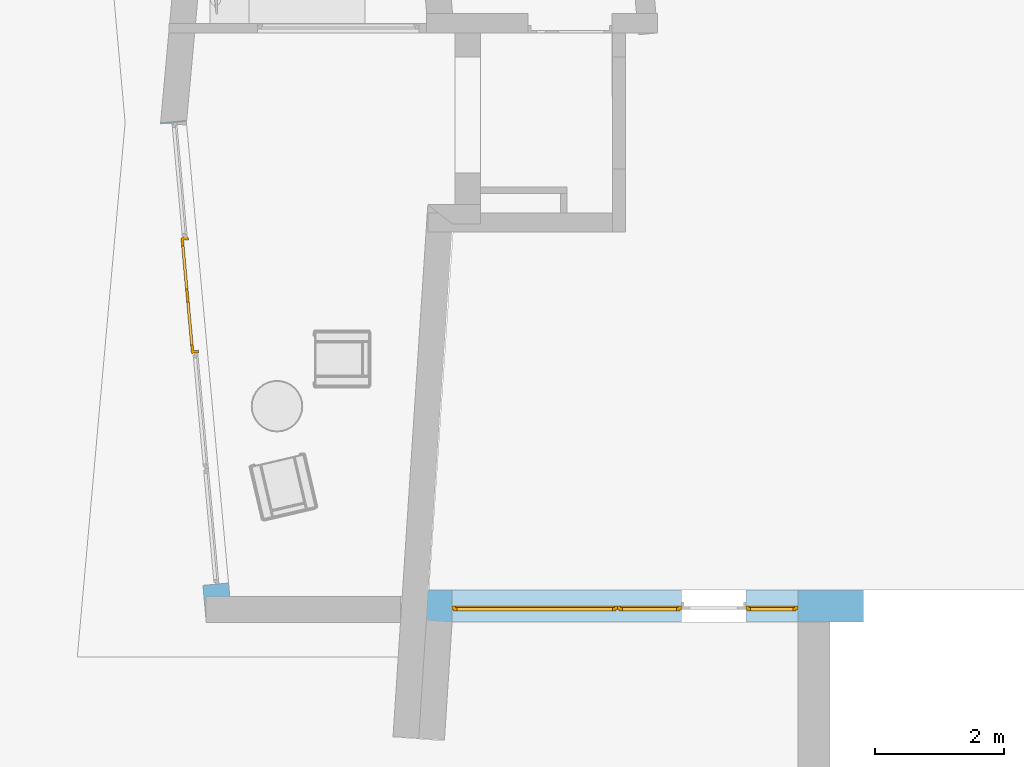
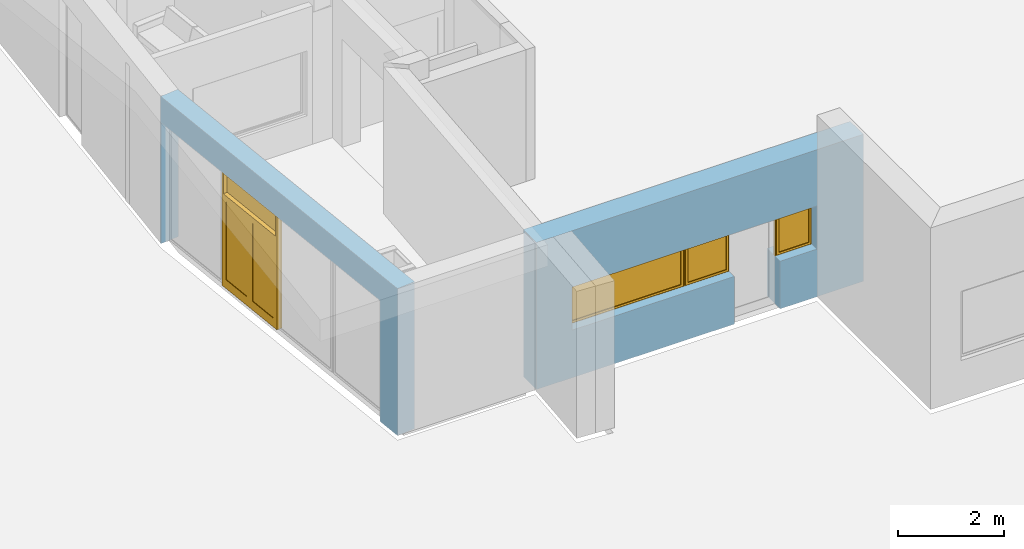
# One storey, part 14 of 36: 3 windows, 1 door, 8 openings, plus 2 elements that do not belong to this part.
"""IFC2X3 building model written with IfcOpenShell, lengths in millimetres."""

from ifc_helpers import new_model, entity, si_unit, converted_unit, money_unit, direction, frame, origin_with_axes, place, context, subcontext, project, spatial, polyline, outline, extrude, open_shell, faceted_brep, surface_model, material, material_list, layer, layer_set, layer_usage, type_object, element, fill, save


model = new_model("IFC2X3")

# Units and contexts
model_context = context("Model", 3, precision=1e-05, world=origin_with_axes(), true_north=direction((0.0, 1.0)))
body_context = subcontext(model_context, "Body", "Model", "MODEL_VIEW")
ifc_project = project(units=[si_unit("LENGTHUNIT", "METRE", prefix="MILLI"), si_unit("AREAUNIT", "SQUARE_METRE"), si_unit("VOLUMEUNIT", "CUBIC_METRE"), converted_unit("PLANEANGLEUNIT", "DEGREE", entity("IfcPlaneAngleMeasure", 0.0174532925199), si_unit("PLANEANGLEUNIT", "RADIAN"), dimensions=[0, 0, 0, 0, 0, 0, 0]), si_unit("SOLIDANGLEUNIT", "STERADIAN"), money_unit("USD"), converted_unit("TIMEUNIT", "Year", entity("IfcTimeMeasure", 31556926.0), si_unit("TIMEUNIT", "SECOND"), dimensions=[0, 0, 0, 0, 0, 0, 0]), si_unit("MASSUNIT", "GRAM"), si_unit("THERMODYNAMICTEMPERATUREUNIT", "DEGREE_CELSIUS"), si_unit("LUMINOUSINTENSITYUNIT", "LUMEN")], contexts=[model_context])

# Site, building, storey
site_placement = place(None, origin_with_axes())
site = spatial("IfcSite", under=ifc_project, at=site_placement, Name="Site", CompositionType="ELEMENT")
building_placement = place(site_placement, origin_with_axes())
building = spatial("IfcBuilding", under=site, at=building_placement, Name="Building", CompositionType="ELEMENT")
storey_placement = place(building_placement, frame((0.0, 0.0, -3400.0), z_axis=(0.0, 0.0, 1.0), x_axis=(1.0, 0.0, 0.0)))
storey = spatial("IfcBuildingStorey", under=building, at=storey_placement, Name="1KORRUS", CompositionType="ELEMENT", Elevation=-3400.0)

# Wall, openings, windows
ifc_material_1 = material(Name="Olemasolevad seinad tellis, uus viimistlus")
ifc_layer_1 = layer(ifc_material_1, 500.0, ventilated="UNKNOWN")
ifc_layer_set_1 = layer_set([ifc_layer_1], Name="Olemasolevad seinad tellis, uus viimistlus 500")
ifc_layer_usage_1 = layer_usage(ifc_layer_set_1, "AXIS2", "POSITIVE", -400.0)
wall_type_1 = type_object("IfcWallType", Name="Olemasolevad seinad tellis, uus viimistlus 500", PredefinedType="NOTDEFINED")
wall_1_placement = place(storey_placement, frame((-54605.6435345, -19739.2398994, 0.0), z_axis=(0.0, 0.0, 1.0), x_axis=(1.0, 0.0, 0.0)))
wall_1 = element("IfcWallStandardCase", 1, at=wall_1_placement, inside=storey, type_object=wall_type_1, material=ifc_layer_usage_1, Name="VS1", ObjectType="VS1", context=body_context, shape_type="SweptSolid", body=[
    extrude(outline(polyline([(0.0, -400.0), (7153.83557515, -400.0), (7153.83557515, 100.0), (0.0, 100.0), (0.0, -400.0)])), origin_with_axes(), (0.0, 0.0, 1.0), 3400.0),
])
opening_1_placement = place(wall_1_placement, frame((2055.11692338, 0.0, 1100.0), z_axis=(0.0, 0.0, 1.0), x_axis=(1.0, 0.0, 0.0)))
opening_1 = element("IfcOpeningElement", 2, at=opening_1_placement, cuts=wall_1, Name="Olemasolevad aknad jäävad", context=body_context, shape_type="SweptSolid", body=[
    extrude(outline(polyline([(1282.942, 1000.0), (-1282.942, 1000.0), (-1282.942, 0.0), (1282.942, 0.0), (1282.942, 1000.0)])), frame((0.0, -200.0, 0.0), z_axis=(0.0, 1.0, 0.0), x_axis=(-1.0, 0.0, 0.0)), (0.0, 0.0, 1.0), 800.0),
    extrude(outline(polyline([(1282.942, 0.0), (-1282.942, 0.0), (-1282.942, -1000.0), (1282.942, -1000.0), (1282.942, 0.0)])), frame((0.0, -200.0, 0.0), z_axis=(0.0, -1.0, 0.0), x_axis=(-1.0, 0.0, 0.0)), (0.0, 0.0, 1.0), 700.0),
])
opening_2_placement = place(wall_1_placement, frame((3834.30451492, 0.0, 1100.0), z_axis=(0.0, 0.0, 1.0), x_axis=(1.0, 0.0, 0.0)))
opening_2 = element("IfcOpeningElement", 3, at=opening_2_placement, cuts=wall_1, Name="Olemasolevad aknad jäävad", context=body_context, shape_type="SweptSolid", body=[
    extrude(outline(polyline([(496.245, 1000.0), (-496.245, 1000.0), (-496.245, 0.0), (496.245, 0.0), (496.245, 1000.0)])), frame((0.0, -200.0, 0.0), z_axis=(0.0, 1.0, 0.0), x_axis=(-1.0, 0.0, 0.0)), (0.0, 0.0, 1.0), 800.0),
    extrude(outline(polyline([(496.245, 0.0), (-496.245, 0.0), (-496.245, -1000.0), (496.245, -1000.0), (496.245, 0.0)])), frame((0.0, -200.0, 0.0), z_axis=(0.0, -1.0, 0.0), x_axis=(-1.0, 0.0, 0.0)), (0.0, 0.0, 1.0), 700.0),
])
opening_3_placement = place(wall_1_placement, frame((5732.94838348, 0.0, 1100.0), z_axis=(0.0, 0.0, 1.0), x_axis=(1.0, 0.0, 0.0)))
opening_3 = element("IfcOpeningElement", 4, at=opening_3_placement, cuts=wall_1, Name="Olemasolevad aknad jäävad", context=body_context, shape_type="SweptSolid", body=[
    extrude(outline(polyline([(402.398, 1000.0), (-402.398, 1000.0), (-402.398, 0.0), (402.398, 0.0), (402.398, 1000.0)])), frame((0.0, -200.0, 0.0), z_axis=(0.0, 1.0, 0.0), x_axis=(-1.0, 0.0, 0.0)), (0.0, 0.0, 1.0), 800.0),
    extrude(outline(polyline([(402.398, 0.0), (-402.398, 0.0), (-402.398, -1000.0), (402.398, -1000.0), (402.398, 0.0)])), frame((0.0, -200.0, 0.0), z_axis=(0.0, -1.0, 0.0), x_axis=(-1.0, 0.0, 0.0)), (0.0, 0.0, 1.0), 700.0),
])
opening_4_placement = place(wall_1_placement, frame((4830.54993578, 0.0, 0.0), z_axis=(0.0, 0.0, 1.0), x_axis=(1.0, 0.0, 0.0)))
element("IfcOpeningElement", 5, at=opening_4_placement, cuts=wall_1, Name="ava", context=body_context, shape_type="SweptSolid", body=[
    extrude(outline(polyline([(-500.0, 2100.0), (-500.0, 0.0), (500.0, 0.0), (500.0, 2100.0), (-500.0, 2100.0)])), frame((0.0, -200.0, 0.0), z_axis=(0.0, -1.0, 0.0), x_axis=(1.0, 0.0, 0.0)), (0.0, 0.0, -1.0), 800.0),
    extrude(outline(polyline([(-500.0, 0.0), (-500.0, -2100.0), (500.0, -2100.0), (500.0, 0.0), (-500.0, 0.0)])), frame((0.0, -200.0, 0.0), z_axis=(0.0, 1.0, 0.0), x_axis=(1.0, 0.0, 0.0)), (0.0, 0.0, -1.0), 700.0),
])
ifc_material_2 = material(Name="Background")
ifc_material_list = material_list([ifc_material_2])
window_style = type_object("IfcWindowStyle", Name="Window 19", ConstructionType="NOTDEFINED", OperationType="SINGLE_PANEL", ParameterTakesPrecedence=False, Sizeable=False)
window_1_placement = place(opening_1_placement, frame((1282.94217069, 0.0, 0.0), z_axis=(0.0, 0.0, 1.0), x_axis=(-1.0, 0.0, 0.0)))
window_1 = element("IfcWindow", 6, at=window_1_placement, inside=storey, type_object=window_style, material=ifc_material_list, Name="Olemasolevad aknad jäävad", ObjectType="Olemasolevad aknad jäävad", OverallHeight=1000.0, OverallWidth=2565.88, context=body_context, shape_type="SurfaceModel", body=[
    faceted_brep([(2540.884, 200.0, 950.0), (2540.884, 175.0, 950.0), (2515.884, 175.0, 950.0), (2515.884, 150.0, 950.0), (2565.884, 150.0, 950.0), (2565.884, 200.0, 950.0), (2540.884, 200.0, 50.0), (2540.884, 175.0, 50.0), (2515.884, 175.0, 50.0), (2515.884, 150.0, 50.0), (2565.884, 150.0, 50.0), (2565.884, 200.0, 50.0)], [[[0, 1, 2, 3, 4, 5]], [[1, 0, 6, 7]], [[8, 2, 1, 7]], [[2, 8, 9, 3]], [[4, 3, 9, 10]], [[5, 4, 10, 11]], [[6, 0, 5, 11]], [[7, 6, 11, 10, 9, 8]]]),
    faceted_brep([(50.000000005, 175.0, 950.0), (25.000000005, 175.0, 950.0), (25.000000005, 200.0, 950.0), (4.99511543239e-09, 200.0, 950.0), (4.99511543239e-09, 150.0, 950.0), (50.000000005, 150.0, 950.0), (50.000000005, 175.0, 50.0), (25.000000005, 175.0, 50.0), (25.000000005, 200.0, 50.0), (4.99511543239e-09, 200.0, 50.0), (4.99511543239e-09, 150.0, 50.0), (50.000000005, 150.0, 50.0)], [[[0, 1, 2, 3, 4, 5]], [[1, 0, 6, 7]], [[8, 2, 1, 7]], [[2, 8, 9, 3]], [[9, 10, 4, 3]], [[10, 11, 5, 4]], [[6, 0, 5, 11]], [[7, 6, 11, 10, 9, 8]]]),
    faceted_brep([(50.000000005, 175.0, 50.0), (25.000000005, 175.0, 50.0), (25.000000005, 200.0, 50.0), (4.99511543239e-09, 200.0, 50.0), (4.99511543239e-09, 150.0, 50.0), (50.000000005, 150.0, 50.0), (2515.884, 175.0, 50.0), (2540.884, 175.0, 50.0), (2540.884, 175.0, 25.0), (25.000000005, 175.0, 25.0), (25.000000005, 200.0, 25.0), (2540.884, 200.0, 25.0), (2540.884, 200.0, 50.0), (2565.884, 200.0, 50.0), (2565.884, 200.0, 0.0), (4.99511543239e-09, 200.0, 0.0), (4.99511543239e-09, 150.0, 0.0), (2565.884, 150.0, 50.0), (2515.884, 150.0, 50.0), (2565.884, 150.0, 0.0)], [[[0, 1, 2, 3, 4, 5]], [[1, 0, 6, 7, 8, 9]], [[10, 2, 1, 9]], [[11, 12, 13, 14, 15, 3, 2, 10]], [[15, 16, 4, 3]], [[17, 18, 5, 4, 16, 19]], [[6, 0, 5, 18]], [[7, 6, 18, 17, 13, 12]], [[7, 12, 11, 8]], [[11, 10, 9, 8]], [[13, 17, 19, 14]], [[14, 19, 16, 15]]]),
    faceted_brep([(2540.884, 200.0, 950.0), (2540.884, 200.0, 975.0), (25.000000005, 200.0, 975.0), (25.000000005, 200.0, 950.0), (4.99511543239e-09, 200.0, 950.0), (4.99511543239e-09, 200.0, 1000.0), (2565.884, 200.0, 1000.0), (2565.884, 200.0, 950.0), (2540.884, 175.0, 950.0), (2540.884, 175.0, 975.0), (25.000000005, 175.0, 975.0), (25.000000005, 175.0, 950.0), (50.000000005, 175.0, 950.0), (50.000000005, 150.0, 950.0), (4.99511543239e-09, 150.0, 950.0), (4.99511543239e-09, 150.0, 1000.0), (2565.884, 150.0, 1000.0), (2565.884, 150.0, 950.0), (2515.884, 150.0, 950.0), (2515.884, 175.0, 950.0)], [[[0, 1, 2, 3, 4, 5, 6, 7]], [[1, 0, 8, 9]], [[2, 1, 9, 10]], [[3, 2, 10, 11]], [[11, 12, 13, 14, 4, 3]], [[4, 14, 15, 5]], [[5, 15, 16, 6]], [[6, 16, 17, 7]], [[8, 0, 7, 17, 18, 19]], [[12, 11, 10, 9, 8, 19]], [[12, 19, 18, 13]], [[14, 13, 18, 17, 16, 15]]]),
    faceted_brep([(2490.884, 175.0, 925.0), (2540.884, 175.0, 925.0), (2540.884, 225.0, 925.0), (2490.884, 225.0, 925.0), (2490.884, 175.0, 75.0), (2540.884, 175.0, 75.0), (2540.884, 225.0, 75.0), (2490.884, 225.0, 75.0)], [[[0, 1, 2, 3]], [[0, 4, 5, 1]], [[1, 5, 6, 2]], [[3, 2, 6, 7]], [[4, 0, 3, 7]], [[5, 4, 7, 6]]]),
    faceted_brep([(75.000000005, 175.0, 75.0), (25.000000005, 175.0, 75.0), (25.000000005, 225.0, 75.0), (75.000000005, 225.0, 75.0), (75.000000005, 175.0, 925.0), (25.000000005, 175.0, 925.0), (25.000000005, 225.0, 925.0), (75.000000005, 225.0, 925.0)], [[[0, 1, 2, 3]], [[0, 4, 5, 1]], [[1, 5, 6, 2]], [[3, 2, 6, 7]], [[4, 0, 3, 7]], [[5, 4, 7, 6]]]),
    faceted_brep([(25.000000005, 175.0, 25.0), (25.000000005, 175.0, 75.0), (25.000000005, 225.0, 75.0), (25.000000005, 225.0, 25.0), (2540.884, 175.0, 25.0), (2540.884, 175.0, 75.0), (2490.884, 175.0, 75.0), (75.000000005, 175.0, 75.0), (75.000000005, 225.0, 75.0), (2490.884, 225.0, 75.0), (2540.884, 225.0, 75.0), (2540.884, 225.0, 25.0)], [[[0, 1, 2, 3]], [[0, 4, 5, 6, 7, 1]], [[1, 7, 8, 2]], [[3, 2, 8, 9, 10, 11]], [[4, 0, 3, 11]], [[5, 4, 11, 10]], [[6, 5, 10, 9]], [[7, 6, 9, 8]]]),
    faceted_brep([(2540.884, 175.0, 975.0), (2540.884, 175.0, 925.0), (2540.884, 225.0, 925.0), (2540.884, 225.0, 975.0), (25.000000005, 175.0, 975.0), (25.000000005, 175.0, 925.0), (75.000000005, 175.0, 925.0), (2490.884, 175.0, 925.0), (2490.884, 225.0, 925.0), (75.000000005, 225.0, 925.0), (25.000000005, 225.0, 925.0), (25.000000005, 225.0, 975.0)], [[[0, 1, 2, 3]], [[0, 4, 5, 6, 7, 1]], [[1, 7, 8, 2]], [[3, 2, 8, 9, 10, 11]], [[4, 0, 3, 11]], [[5, 4, 11, 10]], [[6, 5, 10, 9]], [[7, 6, 9, 8]]]),
    surface_model("IfcShellBasedSurfaceModel", [(2490.884, 190.0, 75.0), (2490.884, 190.0, 925.0), (75.000000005, 190.0, 925.0), (75.000000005, 190.0, 75.0)], [open_shell([[[0, 1, 2, 3]]])]),
    surface_model("IfcShellBasedSurfaceModel", [(2490.884, 210.0, 75.0), (75.000000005, 210.0, 75.0), (75.000000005, 210.0, 925.0), (2490.884, 210.0, 925.0)], [open_shell([[[0, 1, 2, 3]]])]),
])
fill(opening_1, window_1)
window_2_placement = place(opening_2_placement, frame((496.245420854, 0.0, 0.0), z_axis=(0.0, 0.0, 1.0), x_axis=(-1.0, 0.0, 0.0)))
window_2 = element("IfcWindow", 7, at=window_2_placement, inside=storey, type_object=window_style, material=ifc_material_list, Name="Olemasolevad aknad jäävad", ObjectType="Olemasolevad aknad jäävad", OverallHeight=1000.0, OverallWidth=992.491, context=body_context, shape_type="SurfaceModel", body=[
    faceted_brep([(967.491, 200.0, 950.0), (967.491, 175.0, 950.0), (942.491, 175.0, 950.0), (942.491, 150.0, 950.0), (992.491, 150.0, 950.0), (992.491, 200.0, 950.0), (967.491, 200.0, 50.0), (967.491, 175.0, 50.0), (942.491, 175.0, 50.0), (942.491, 150.0, 50.0), (992.491, 150.0, 50.0), (992.491, 200.0, 50.0)], [[[0, 1, 2, 3, 4, 5]], [[1, 0, 6, 7]], [[8, 2, 1, 7]], [[2, 8, 9, 3]], [[4, 3, 9, 10]], [[5, 4, 10, 11]], [[6, 0, 5, 11]], [[7, 6, 11, 10, 9, 8]]]),
    faceted_brep([(50.0, 175.0, 950.0), (25.0, 175.0, 950.0), (25.0, 200.0, 950.0), (0.0, 200.0, 950.0), (0.0, 150.0, 950.0), (50.0, 150.0, 950.0), (50.0, 175.0, 50.0), (25.0, 175.0, 50.0), (25.0, 200.0, 50.0), (0.0, 200.0, 50.0), (0.0, 150.0, 50.0), (50.0, 150.0, 50.0)], [[[0, 1, 2, 3, 4, 5]], [[1, 0, 6, 7]], [[8, 2, 1, 7]], [[2, 8, 9, 3]], [[9, 10, 4, 3]], [[10, 11, 5, 4]], [[6, 0, 5, 11]], [[7, 6, 11, 10, 9, 8]]]),
    faceted_brep([(50.0, 175.0, 50.0), (25.0, 175.0, 50.0), (25.0, 200.0, 50.0), (0.0, 200.0, 50.0), (0.0, 150.0, 50.0), (50.0, 150.0, 50.0), (942.491, 175.0, 50.0), (967.491, 175.0, 50.0), (967.491, 175.0, 25.0), (25.0, 175.0, 25.0), (25.0, 200.0, 25.0), (967.491, 200.0, 25.0), (967.491, 200.0, 50.0), (992.491, 200.0, 50.0), (992.491, 200.0, 0.0), (0.0, 200.0, 0.0), (0.0, 150.0, 0.0), (992.491, 150.0, 50.0), (942.491, 150.0, 50.0), (992.491, 150.0, 0.0)], [[[0, 1, 2, 3, 4, 5]], [[1, 0, 6, 7, 8, 9]], [[10, 2, 1, 9]], [[11, 12, 13, 14, 15, 3, 2, 10]], [[15, 16, 4, 3]], [[17, 18, 5, 4, 16, 19]], [[6, 0, 5, 18]], [[7, 6, 18, 17, 13, 12]], [[7, 12, 11, 8]], [[11, 10, 9, 8]], [[13, 17, 19, 14]], [[14, 19, 16, 15]]]),
    faceted_brep([(967.491, 200.0, 950.0), (967.491, 200.0, 975.0), (25.0, 200.0, 975.0), (25.0, 200.0, 950.0), (0.0, 200.0, 950.0), (0.0, 200.0, 1000.0), (992.491, 200.0, 1000.0), (992.491, 200.0, 950.0), (967.491, 175.0, 950.0), (967.491, 175.0, 975.0), (25.0, 175.0, 975.0), (25.0, 175.0, 950.0), (50.0, 175.0, 950.0), (50.0, 150.0, 950.0), (0.0, 150.0, 950.0), (0.0, 150.0, 1000.0), (992.491, 150.0, 1000.0), (992.491, 150.0, 950.0), (942.491, 150.0, 950.0), (942.491, 175.0, 950.0)], [[[0, 1, 2, 3, 4, 5, 6, 7]], [[1, 0, 8, 9]], [[2, 1, 9, 10]], [[3, 2, 10, 11]], [[11, 12, 13, 14, 4, 3]], [[4, 14, 15, 5]], [[5, 15, 16, 6]], [[6, 16, 17, 7]], [[8, 0, 7, 17, 18, 19]], [[12, 11, 10, 9, 8, 19]], [[12, 19, 18, 13]], [[14, 13, 18, 17, 16, 15]]]),
    faceted_brep([(917.491, 175.0, 925.0), (967.491, 175.0, 925.0), (967.491, 225.0, 925.0), (917.491, 225.0, 925.0), (917.491, 175.0, 75.0), (967.491, 175.0, 75.0), (967.491, 225.0, 75.0), (917.491, 225.0, 75.0)], [[[0, 1, 2, 3]], [[0, 4, 5, 1]], [[1, 5, 6, 2]], [[3, 2, 6, 7]], [[4, 0, 3, 7]], [[5, 4, 7, 6]]]),
    faceted_brep([(75.0, 175.0, 75.0), (25.0, 175.0, 75.0), (25.0, 225.0, 75.0), (75.0, 225.0, 75.0), (75.0, 175.0, 925.0), (25.0, 175.0, 925.0), (25.0, 225.0, 925.0), (75.0, 225.0, 925.0)], [[[0, 1, 2, 3]], [[0, 4, 5, 1]], [[1, 5, 6, 2]], [[3, 2, 6, 7]], [[4, 0, 3, 7]], [[5, 4, 7, 6]]]),
    faceted_brep([(25.0, 175.0, 25.0), (25.0, 175.0, 75.0), (25.0, 225.0, 75.0), (25.0, 225.0, 25.0), (967.491, 175.0, 25.0), (967.491, 175.0, 75.0), (917.491, 175.0, 75.0), (75.0, 175.0, 75.0), (75.0, 225.0, 75.0), (917.491, 225.0, 75.0), (967.491, 225.0, 75.0), (967.491, 225.0, 25.0)], [[[0, 1, 2, 3]], [[0, 4, 5, 6, 7, 1]], [[1, 7, 8, 2]], [[3, 2, 8, 9, 10, 11]], [[4, 0, 3, 11]], [[5, 4, 11, 10]], [[6, 5, 10, 9]], [[7, 6, 9, 8]]]),
    faceted_brep([(967.491, 175.0, 975.0), (967.491, 175.0, 925.0), (967.491, 225.0, 925.0), (967.491, 225.0, 975.0), (25.0, 175.0, 975.0), (25.0, 175.0, 925.0), (75.0, 175.0, 925.0), (917.491, 175.0, 925.0), (917.491, 225.0, 925.0), (75.0, 225.0, 925.0), (25.0, 225.0, 925.0), (25.0, 225.0, 975.0)], [[[0, 1, 2, 3]], [[0, 4, 5, 6, 7, 1]], [[1, 7, 8, 2]], [[3, 2, 8, 9, 10, 11]], [[4, 0, 3, 11]], [[5, 4, 11, 10]], [[6, 5, 10, 9]], [[7, 6, 9, 8]]]),
    surface_model("IfcShellBasedSurfaceModel", [(917.491, 190.0, 75.0), (917.491, 190.0, 925.0), (75.0, 190.0, 925.0), (75.0, 190.0, 75.0)], [open_shell([[[0, 1, 2, 3]]])]),
    surface_model("IfcShellBasedSurfaceModel", [(917.491, 210.0, 75.0), (75.0, 210.0, 75.0), (75.0, 210.0, 925.0), (917.491, 210.0, 925.0)], [open_shell([[[0, 1, 2, 3]]])]),
])
fill(opening_2, window_2)
window_3_placement = place(opening_3_placement, frame((402.398447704, 0.0, 0.0), z_axis=(0.0, 0.0, 1.0), x_axis=(-1.0, 0.0, 0.0)))
window_3 = element("IfcWindow", 8, at=window_3_placement, inside=storey, type_object=window_style, material=ifc_material_list, Name="Olemasolevad aknad jäävad", ObjectType="Olemasolevad aknad jäävad", OverallHeight=1000.0, OverallWidth=804.797, context=body_context, shape_type="SurfaceModel", body=[
    faceted_brep([(779.797, 200.0, 950.0), (779.797, 175.0, 950.0), (754.797, 175.0, 950.0), (754.797, 150.0, 950.0), (804.797, 150.0, 950.0), (804.797, 200.0, 950.0), (779.797, 200.0, 50.0), (779.797, 175.0, 50.0), (754.797, 175.0, 50.0), (754.797, 150.0, 50.0), (804.797, 150.0, 50.0), (804.797, 200.0, 50.0)], [[[0, 1, 2, 3, 4, 5]], [[1, 0, 6, 7]], [[8, 2, 1, 7]], [[2, 8, 9, 3]], [[4, 3, 9, 10]], [[5, 4, 10, 11]], [[6, 0, 5, 11]], [[7, 6, 11, 10, 9, 8]]]),
    faceted_brep([(50.0, 175.0, 950.0), (25.0, 175.0, 950.0), (25.0, 200.0, 950.0), (0.0, 200.0, 950.0), (0.0, 150.0, 950.0), (50.0, 150.0, 950.0), (50.0, 175.0, 50.0), (25.0, 175.0, 50.0), (25.0, 200.0, 50.0), (0.0, 200.0, 50.0), (0.0, 150.0, 50.0), (50.0, 150.0, 50.0)], [[[0, 1, 2, 3, 4, 5]], [[1, 0, 6, 7]], [[8, 2, 1, 7]], [[2, 8, 9, 3]], [[9, 10, 4, 3]], [[10, 11, 5, 4]], [[6, 0, 5, 11]], [[7, 6, 11, 10, 9, 8]]]),
    faceted_brep([(50.0, 175.0, 50.0), (25.0, 175.0, 50.0), (25.0, 200.0, 50.0), (0.0, 200.0, 50.0), (0.0, 150.0, 50.0), (50.0, 150.0, 50.0), (754.797, 175.0, 50.0), (779.797, 175.0, 50.0), (779.797, 175.0, 25.0), (25.0, 175.0, 25.0), (25.0, 200.0, 25.0), (779.797, 200.0, 25.0), (779.797, 200.0, 50.0), (804.797, 200.0, 50.0), (804.797, 200.0, 0.0), (0.0, 200.0, 0.0), (0.0, 150.0, 0.0), (804.797, 150.0, 50.0), (754.797, 150.0, 50.0), (804.797, 150.0, 0.0)], [[[0, 1, 2, 3, 4, 5]], [[1, 0, 6, 7, 8, 9]], [[10, 2, 1, 9]], [[11, 12, 13, 14, 15, 3, 2, 10]], [[15, 16, 4, 3]], [[17, 18, 5, 4, 16, 19]], [[6, 0, 5, 18]], [[7, 6, 18, 17, 13, 12]], [[7, 12, 11, 8]], [[11, 10, 9, 8]], [[13, 17, 19, 14]], [[14, 19, 16, 15]]]),
    faceted_brep([(779.797, 200.0, 950.0), (779.797, 200.0, 975.0), (25.0, 200.0, 975.0), (25.0, 200.0, 950.0), (0.0, 200.0, 950.0), (0.0, 200.0, 1000.0), (804.797, 200.0, 1000.0), (804.797, 200.0, 950.0), (779.797, 175.0, 950.0), (779.797, 175.0, 975.0), (25.0, 175.0, 975.0), (25.0, 175.0, 950.0), (50.0, 175.0, 950.0), (50.0, 150.0, 950.0), (0.0, 150.0, 950.0), (0.0, 150.0, 1000.0), (804.797, 150.0, 1000.0), (804.797, 150.0, 950.0), (754.797, 150.0, 950.0), (754.797, 175.0, 950.0)], [[[0, 1, 2, 3, 4, 5, 6, 7]], [[1, 0, 8, 9]], [[2, 1, 9, 10]], [[3, 2, 10, 11]], [[11, 12, 13, 14, 4, 3]], [[4, 14, 15, 5]], [[5, 15, 16, 6]], [[6, 16, 17, 7]], [[8, 0, 7, 17, 18, 19]], [[12, 11, 10, 9, 8, 19]], [[12, 19, 18, 13]], [[14, 13, 18, 17, 16, 15]]]),
    faceted_brep([(729.797, 175.0, 925.0), (779.797, 175.0, 925.0), (779.797, 225.0, 925.0), (729.797, 225.0, 925.0), (729.797, 175.0, 75.0), (779.797, 175.0, 75.0), (779.797, 225.0, 75.0), (729.797, 225.0, 75.0)], [[[0, 1, 2, 3]], [[0, 4, 5, 1]], [[1, 5, 6, 2]], [[3, 2, 6, 7]], [[4, 0, 3, 7]], [[5, 4, 7, 6]]]),
    faceted_brep([(75.0, 175.0, 75.0), (25.0, 175.0, 75.0), (25.0, 225.0, 75.0), (75.0, 225.0, 75.0), (75.0, 175.0, 925.0), (25.0, 175.0, 925.0), (25.0, 225.0, 925.0), (75.0, 225.0, 925.0)], [[[0, 1, 2, 3]], [[0, 4, 5, 1]], [[1, 5, 6, 2]], [[3, 2, 6, 7]], [[4, 0, 3, 7]], [[5, 4, 7, 6]]]),
    faceted_brep([(25.0, 175.0, 25.0), (25.0, 175.0, 75.0), (25.0, 225.0, 75.0), (25.0, 225.0, 25.0), (779.797, 175.0, 25.0), (779.797, 175.0, 75.0), (729.797, 175.0, 75.0), (75.0, 175.0, 75.0), (75.0, 225.0, 75.0), (729.797, 225.0, 75.0), (779.797, 225.0, 75.0), (779.797, 225.0, 25.0)], [[[0, 1, 2, 3]], [[0, 4, 5, 6, 7, 1]], [[1, 7, 8, 2]], [[3, 2, 8, 9, 10, 11]], [[4, 0, 3, 11]], [[5, 4, 11, 10]], [[6, 5, 10, 9]], [[7, 6, 9, 8]]]),
    faceted_brep([(779.797, 175.0, 975.0), (779.797, 175.0, 925.0), (779.797, 225.0, 925.0), (779.797, 225.0, 975.0), (25.0, 175.0, 975.0), (25.0, 175.0, 925.0), (75.0, 175.0, 925.0), (729.797, 175.0, 925.0), (729.797, 225.0, 925.0), (75.0, 225.0, 925.0), (25.0, 225.0, 925.0), (25.0, 225.0, 975.0)], [[[0, 1, 2, 3]], [[0, 4, 5, 6, 7, 1]], [[1, 7, 8, 2]], [[3, 2, 8, 9, 10, 11]], [[4, 0, 3, 11]], [[5, 4, 11, 10]], [[6, 5, 10, 9]], [[7, 6, 9, 8]]]),
    surface_model("IfcShellBasedSurfaceModel", [(729.797, 190.0, 75.0), (729.797, 190.0, 925.0), (75.0, 190.0, 925.0), (75.0, 190.0, 75.0)], [open_shell([[[0, 1, 2, 3]]])]),
    surface_model("IfcShellBasedSurfaceModel", [(729.797, 210.0, 75.0), (75.0, 210.0, 75.0), (75.0, 210.0, 925.0), (729.797, 210.0, 925.0)], [open_shell([[[0, 1, 2, 3]]])]),
])
fill(opening_3, window_3)

# Wall, openings, door
ifc_material_3 = material(Name="Kergplokk")
ifc_layer_2 = layer(ifc_material_3, 200.0, ventilated="UNKNOWN")
ifc_material_4 = material(Name="Plaat")
ifc_layer_3 = layer(ifc_material_4, 200.0, ventilated="UNKNOWN")
ifc_layer_set_2 = layer_set([ifc_layer_2, ifc_layer_3], Name="VS2 Uus välissein kergplokk, soojustus, plaat")
ifc_layer_usage_2 = layer_usage(ifc_layer_set_2, "AXIS2", "POSITIVE", -400.0)
wall_type_2 = type_object("IfcWallType", Name="VS2 Uus välissein kergplokk, soojustus, plaat 400", PredefinedType="NOTDEFINED")
wall_2_placement = place(storey_placement, frame((-57647.6401026, -20140.8461459, 0.0), z_axis=(0.0, 0.0, 1.0), x_axis=(-0.0910473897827, 0.995846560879, 0.0)))
wall_2 = element("IfcWallStandardCase", 9, at=wall_2_placement, inside=storey, type_object=wall_type_2, material=ifc_layer_usage_2, Name="VS2", ObjectType="VS2", context=body_context, shape_type="SweptSolid", body=[
    extrude(outline(polyline([(0.0, -400.0), (7782.94701514, -400.0), (7782.94701514, 0.0), (0.0, 0.0), (0.0, -400.0)])), origin_with_axes(), (0.0, 0.0, 1.0), 3400.0),
])
opening_5_placement = place(wall_2_placement, frame((6866.08785727, 0.0, 0.0), z_axis=(0.0, 0.0, 1.0), x_axis=(1.0, 0.0, 0.0)))
element("IfcOpeningElement", 10, at=opening_5_placement, cuts=wall_2, Name="KLA1", context=body_context, shape_type="SweptSolid", body=[
    extrude(outline(polyline([(-900.0, 0.0), (-900.0, -2800.0), (900.0, -2800.0), (900.0, 0.0), (-900.0, 0.0)])), frame((0.0, -200.0, 0.0), z_axis=(0.0, 1.0, 0.0), x_axis=(1.0, 0.0, 0.0)), (0.0, 0.0, 1.0), 600.0),
    extrude(outline(polyline([(-900.0, 2800.0), (-900.0, 0.0), (900.0, 0.0), (900.0, 2800.0), (-900.0, 2800.0)])), frame((0.0, -200.0, 0.0), z_axis=(0.0, -1.0, 0.0), x_axis=(1.0, 0.0, 0.0)), (0.0, 0.0, 1.0), 600.0),
])
opening_6_placement = place(wall_2_placement, frame((3275.57702924, 0.0, 0.0), z_axis=(0.0, 0.0, 1.0), x_axis=(1.0, 0.0, 0.0)))
element("IfcOpeningElement", 11, at=opening_6_placement, cuts=wall_2, Name="KLA1", context=body_context, shape_type="SweptSolid", body=[
    extrude(outline(polyline([(-900.0, 0.0), (-900.0, -2800.0), (900.0, -2800.0), (900.0, 0.0), (-900.0, 0.0)])), frame((0.0, -200.0, 0.0), z_axis=(0.0, 1.0, 0.0), x_axis=(1.0, 0.0, 0.0)), (0.0, 0.0, 1.0), 600.0),
    extrude(outline(polyline([(-900.0, 2800.0), (-900.0, 0.0), (900.0, 0.0), (900.0, 2800.0), (-900.0, 2800.0)])), frame((0.0, -200.0, 0.0), z_axis=(0.0, -1.0, 0.0), x_axis=(1.0, 0.0, 0.0)), (0.0, 0.0, 1.0), 600.0),
])
opening_7_placement = place(wall_2_placement, frame((1475.57702924, 0.0, 0.0), z_axis=(0.0, 0.0, 1.0), x_axis=(1.0, 0.0, 0.0)))
element("IfcOpeningElement", 12, at=opening_7_placement, cuts=wall_2, Name="KLA1", context=body_context, shape_type="SweptSolid", body=[
    extrude(outline(polyline([(-900.0, 0.0), (-900.0, -2800.0), (900.0, -2800.0), (900.0, 0.0), (-900.0, 0.0)])), frame((0.0, -200.0, 0.0), z_axis=(0.0, 1.0, 0.0), x_axis=(1.0, 0.0, 0.0)), (0.0, 0.0, 1.0), 600.0),
    extrude(outline(polyline([(-900.0, 2800.0), (-900.0, 0.0), (900.0, 0.0), (900.0, 2800.0), (-900.0, 2800.0)])), frame((0.0, -200.0, 0.0), z_axis=(0.0, -1.0, 0.0), x_axis=(1.0, 0.0, 0.0)), (0.0, 0.0, 1.0), 600.0),
])
opening_8_placement = place(wall_2_placement, frame((5075.57702924, 0.0, 0.0), z_axis=(0.0, 0.0, 1.0), x_axis=(1.0, 0.0, 0.0)))
opening_8 = element("IfcOpeningElement", 13, at=opening_8_placement, cuts=wall_2, Name="KLA1", context=body_context, shape_type="SweptSolid", body=[
    extrude(outline(polyline([(900.0, 2800.0), (-900.0, 2800.0), (-900.0, 0.0), (900.0, 0.0), (900.0, 2800.0)])), frame((0.0, -150.0, 0.0), z_axis=(0.0, -1.0, 0.0), x_axis=(1.0, 0.0, 0.0)), (0.0, 0.0, 1.0), 650.0),
    extrude(outline(polyline([(900.0, 0.0), (-900.0, 0.0), (-900.0, -2800.0), (900.0, -2800.0), (900.0, 0.0)])), frame((0.0, -150.0, 0.0), z_axis=(0.0, 1.0, 0.0), x_axis=(1.0, 0.0, 0.0)), (0.0, 0.0, 1.0), 550.0),
])
door_style = type_object("IfcDoorStyle", Name="Double Door with Transom 19", ConstructionType="NOTDEFINED", OperationType="DOUBLE_DOOR_SINGLE_SWING", ParameterTakesPrecedence=False, Sizeable=False)
door_placement = place(opening_8_placement, frame((-900.0, 0.0, 0.0), z_axis=(0.0, 0.0, 1.0), x_axis=(1.0, 0.0, 0.0)))
door = element("IfcDoor", 14, at=door_placement, inside=storey, type_object=door_style, material=ifc_material_list, Name="KLA1", ObjectType="DOOR", OverallHeight=2800.0, OverallWidth=1800.0, context=body_context, shape_type="SurfaceModel", body=[
    faceted_brep([(1760.0, -190.0, 2112.0), (1760.0, -190.0, 0.0), (1760.0, -265.0, 0.0), (1760.0, -265.0, 2100.0), (1760.0, -265.0, 2140.0), (1760.0, -150.0, 2140.0), (1760.0, -150.0, 2112.0), (1772.0, -190.0, 2112.0), (1772.0, -190.0, 0.0), (1772.0, -150.0, 0.0), (1800.0, -150.0, 0.0), (1800.0, -265.0, 0.0), (1760.0, -265.0, 2760.0), (1800.0, -265.0, 2760.0), (1760.0, -150.0, 2760.0), (1772.0, -150.0, 2112.0), (1800.0, -150.0, 2760.0)], [[[0, 1, 2, 3, 4, 5, 6]], [[0, 7, 8, 1]], [[8, 9, 10, 11, 2, 1]], [[12, 4, 3, 2, 11, 13]], [[12, 14, 5, 4]], [[15, 6, 5, 14, 16, 10, 9]], [[6, 15, 7, 0]], [[9, 8, 7, 15]], [[11, 10, 16, 13]], [[13, 16, 14, 12]]]),
    faceted_brep([(28.0, -150.0, 2112.0), (28.0, -150.0, 0.0), (0.0, -150.0, 0.0), (0.0, -150.0, 2760.0), (40.0, -150.0, 2760.0), (40.0, -150.0, 2140.0), (40.0, -150.0, 2112.0), (28.0, -190.0, 2112.0), (28.0, -190.0, 0.0), (40.0, -190.0, 0.0), (40.0, -265.0, 0.0), (0.0, -265.0, 0.0), (0.0, -265.0, 2760.0), (40.0, -265.0, 2760.0), (40.0, -265.0, 2140.0), (40.0, -190.0, 2112.0), (40.0, -265.0, 2100.0)], [[[0, 1, 2, 3, 4, 5, 6]], [[0, 7, 8, 1]], [[8, 9, 10, 11, 2, 1]], [[12, 3, 2, 11]], [[13, 4, 3, 12]], [[14, 5, 4, 13]], [[15, 6, 5, 14, 16, 10, 9]], [[6, 15, 7, 0]], [[8, 7, 15, 9]], [[16, 14, 13, 12, 11, 10]]]),
    faceted_brep([(1800.0, -150.0, 2800.0), (1800.0, -265.0, 2800.0), (1800.0, -265.0, 2760.0), (1800.0, -150.0, 2760.0), (0.0, -150.0, 2800.0), (0.0, -265.0, 2800.0), (0.0, -265.0, 2760.0), (40.0, -265.0, 2760.0), (1760.0, -265.0, 2760.0), (1760.0, -150.0, 2760.0), (40.0, -150.0, 2760.0), (0.0, -150.0, 2760.0)], [[[0, 1, 2, 3]], [[4, 5, 1, 0]], [[1, 5, 6, 7, 8, 2]], [[3, 2, 8, 9]], [[0, 3, 9, 10, 11, 4]], [[11, 6, 5, 4]], [[10, 7, 6, 11]], [[9, 8, 7, 10]]]),
    faceted_brep([(40.0, -190.0, 2112.0), (40.0, -190.0, 2100.0), (40.0, -265.0, 2100.0), (40.0, -265.0, 2140.0), (40.0, -150.0, 2140.0), (40.0, -150.0, 2112.0), (1760.0, -190.0, 2112.0), (1760.0, -190.0, 2100.0), (1760.0, -265.0, 2100.0), (1760.0, -265.0, 2140.0), (1760.0, -150.0, 2140.0), (1760.0, -150.0, 2112.0)], [[[0, 1, 2, 3, 4, 5]], [[0, 6, 7, 1]], [[7, 8, 2, 1]], [[2, 8, 9, 3]], [[9, 10, 4, 3]], [[5, 4, 10, 11]], [[5, 11, 6, 0]], [[6, 11, 10, 9, 8, 7]]]),
    faceted_brep([(28.0, -150.0, 200.0), (128.0, -150.0, 200.0), (128.0, -190.0, 200.0), (28.0, -190.0, 200.0), (28.0, -150.0, 2012.0), (128.0, -150.0, 2012.0), (128.0, -190.0, 2012.0), (28.0, -190.0, 2012.0)], [[[0, 1, 2, 3]], [[0, 4, 5, 1]], [[1, 5, 6, 2]], [[3, 2, 6, 7]], [[4, 0, 3, 7]], [[5, 4, 7, 6]]]),
    faceted_brep([(900.0, -150.0, 200.0), (900.0, -150.0, 2012.0), (900.0, -190.0, 2012.0), (900.0, -190.0, 200.0), (800.0, -150.0, 200.0), (800.0, -150.0, 2012.0), (800.0, -190.0, 2012.0), (800.0, -190.0, 200.0)], [[[0, 1, 2, 3]], [[0, 4, 5, 1]], [[1, 5, 6, 2]], [[3, 2, 6, 7]], [[4, 0, 3, 7]], [[5, 4, 7, 6]]]),
    faceted_brep([(28.0, -150.0, 0.0), (900.0, -150.0, 0.0), (900.0, -190.0, 0.0), (28.0, -190.0, 0.0), (28.0, -150.0, 200.0), (128.0, -150.0, 200.0), (800.0, -150.0, 200.0), (900.0, -150.0, 200.0), (900.0, -190.0, 200.0), (800.0, -190.0, 200.0), (128.0, -190.0, 200.0), (28.0, -190.0, 200.0)], [[[0, 1, 2, 3]], [[0, 4, 5, 6, 7, 1]], [[1, 7, 8, 2]], [[3, 2, 8, 9, 10, 11]], [[4, 0, 3, 11]], [[5, 4, 11, 10]], [[6, 5, 10, 9]], [[7, 6, 9, 8]]]),
    faceted_brep([(28.0, -150.0, 2112.0), (28.0, -150.0, 2012.0), (28.0, -190.0, 2012.0), (28.0, -190.0, 2112.0), (900.0, -150.0, 2112.0), (900.0, -150.0, 2012.0), (800.0, -150.0, 2012.0), (128.0, -150.0, 2012.0), (128.0, -190.0, 2012.0), (800.0, -190.0, 2012.0), (900.0, -190.0, 2012.0), (900.0, -190.0, 2112.0)], [[[0, 1, 2, 3]], [[0, 4, 5, 6, 7, 1]], [[1, 7, 8, 2]], [[3, 2, 8, 9, 10, 11]], [[4, 0, 3, 11]], [[5, 4, 11, 10]], [[6, 5, 10, 9]], [[7, 6, 9, 8]]]),
    surface_model("IfcShellBasedSurfaceModel", [(128.0, -164.0, 200.0), (128.0, -164.0, 2012.0), (800.0, -164.0, 2012.0), (800.0, -164.0, 200.0)], [open_shell([[[0, 1, 2, 3]]])]),
    surface_model("IfcShellBasedSurfaceModel", [(128.0, -176.0, 200.0), (800.0, -176.0, 200.0), (800.0, -176.0, 2012.0), (128.0, -176.0, 2012.0)], [open_shell([[[0, 1, 2, 3]]])]),
    faceted_brep([(1772.0, -150.0, 200.0), (1772.0, -190.0, 200.0), (1672.0, -190.0, 200.0), (1672.0, -150.0, 200.0), (1772.0, -150.0, 2012.0), (1772.0, -190.0, 2012.0), (1672.0, -190.0, 2012.0), (1672.0, -150.0, 2012.0)], [[[0, 1, 2, 3]], [[4, 5, 1, 0]], [[1, 5, 6, 2]], [[3, 2, 6, 7]], [[0, 3, 7, 4]], [[7, 6, 5, 4]]]),
    faceted_brep([(900.0, -150.0, 200.0), (900.0, -190.0, 200.0), (900.0, -190.0, 2012.0), (900.0, -150.0, 2012.0), (1000.0, -150.0, 200.0), (1000.0, -190.0, 200.0), (1000.0, -190.0, 2012.0), (1000.0, -150.0, 2012.0)], [[[0, 1, 2, 3]], [[4, 5, 1, 0]], [[1, 5, 6, 2]], [[3, 2, 6, 7]], [[0, 3, 7, 4]], [[7, 6, 5, 4]]]),
    faceted_brep([(1772.0, -150.0, 0.0), (1772.0, -190.0, 0.0), (900.0, -190.0, 0.0), (900.0, -150.0, 0.0), (1772.0, -150.0, 200.0), (1772.0, -190.0, 200.0), (1672.0, -190.0, 200.0), (1000.0, -190.0, 200.0), (900.0, -190.0, 200.0), (900.0, -150.0, 200.0), (1000.0, -150.0, 200.0), (1672.0, -150.0, 200.0)], [[[0, 1, 2, 3]], [[4, 5, 1, 0]], [[1, 5, 6, 7, 8, 2]], [[3, 2, 8, 9]], [[0, 3, 9, 10, 11, 4]], [[11, 6, 5, 4]], [[10, 7, 6, 11]], [[9, 8, 7, 10]]]),
    faceted_brep([(1772.0, -150.0, 2112.0), (1772.0, -190.0, 2112.0), (1772.0, -190.0, 2012.0), (1772.0, -150.0, 2012.0), (900.0, -150.0, 2112.0), (900.0, -190.0, 2112.0), (900.0, -190.0, 2012.0), (1000.0, -190.0, 2012.0), (1672.0, -190.0, 2012.0), (1672.0, -150.0, 2012.0), (1000.0, -150.0, 2012.0), (900.0, -150.0, 2012.0)], [[[0, 1, 2, 3]], [[4, 5, 1, 0]], [[1, 5, 6, 7, 8, 2]], [[3, 2, 8, 9]], [[0, 3, 9, 10, 11, 4]], [[11, 6, 5, 4]], [[10, 7, 6, 11]], [[9, 8, 7, 10]]]),
    surface_model("IfcShellBasedSurfaceModel", [(1672.0, -164.0, 200.0), (1000.0, -164.0, 200.0), (1000.0, -164.0, 2012.0), (1672.0, -164.0, 2012.0)], [open_shell([[[0, 1, 2, 3]]])]),
    surface_model("IfcShellBasedSurfaceModel", [(1672.0, -176.0, 200.0), (1672.0, -176.0, 2012.0), (1000.0, -176.0, 2012.0), (1000.0, -176.0, 200.0)], [open_shell([[[0, 1, 2, 3]]])]),
    surface_model("IfcShellBasedSurfaceModel", [(1760.0, -241.0, 2140.0), (40.0, -241.0, 2140.0), (40.0, -241.0, 2760.0), (1760.0, -241.0, 2760.0)], [open_shell([[[0, 1, 2, 3]]])]),
    surface_model("IfcShellBasedSurfaceModel", [(1760.0, -253.0, 2140.0), (1760.0, -253.0, 2760.0), (40.0, -253.0, 2760.0), (40.0, -253.0, 2140.0)], [open_shell([[[0, 1, 2, 3]]])]),
])
fill(opening_8, door)

save(model, "model.ifc")
